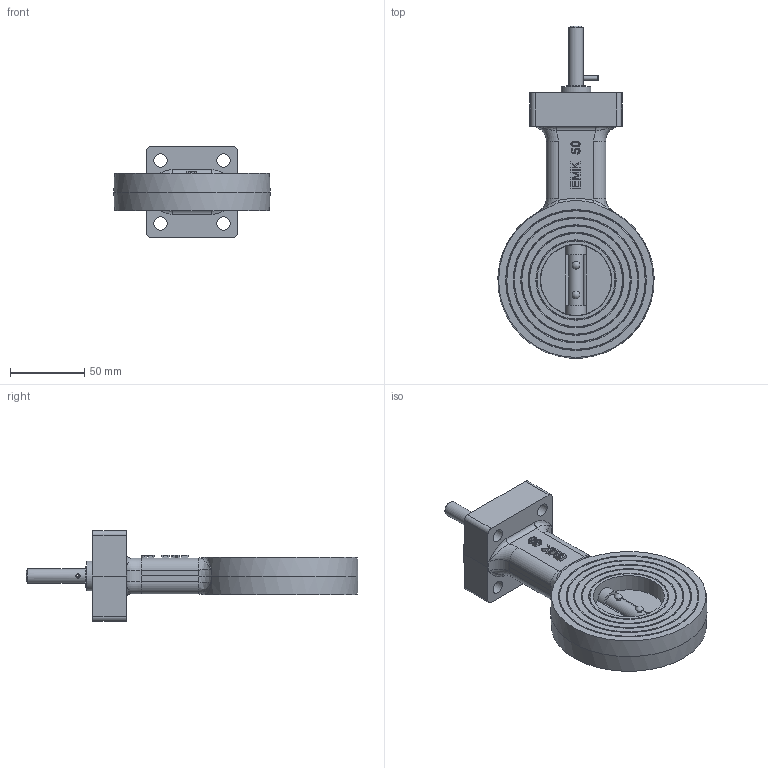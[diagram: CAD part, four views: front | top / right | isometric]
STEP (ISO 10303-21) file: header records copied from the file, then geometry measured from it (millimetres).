
FILE_DESCRIPTION((''),'2;1');
FILE_NAME('G:\CAD-Download\MRK\MRK Ro We\DN 50\MRK Ro We 20N-4.00.32.stp','2010-08-19T09:03:51',('da'),(''),'Autodesk Inventor 2008','Autodesk Inventor 2008','');
FILE_SCHEMA(('AUTOMOTIVE_DESIGN { 1 0 10303 214 1 1 1 1 }'));
Length unit declared in the file: millimetre
Products named in the file (1): Bauteil2
Bounding box: 105.19 x 223.46 x 61 mm (x, y, z)
Volume: 304896.7 mm3; surface area: 60152.6 mm2
Topology: 1 solids, 1 shells, 335 faces, 854 edges, 547 vertices
Faces by surface type: plane 177, bspline 81, cylinder 51, cone 18, sphere 4, torus 4
Full cylindrical faces by diameter (mm): 2 x2, 3 x2, 8 x2, 10 x2, 20 x1, 29.9 x1, 31.4 x1, 47.5 x1, 48 x1
Entity records: 12799 total; most frequent: CARTESIAN_POINT 5090, ORIENTED_EDGE 1524, DIRECTION 1349, EDGE_CURVE 762, VERTEX_POINT 520, AXIS2_PLACEMENT_3D 455, EDGE_LOOP 452, VECTOR 439
